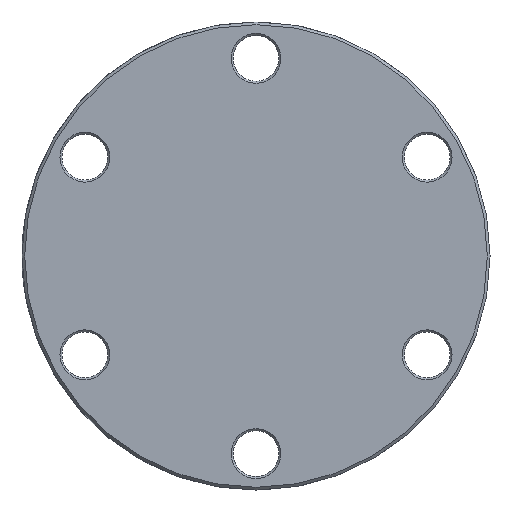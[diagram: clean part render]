
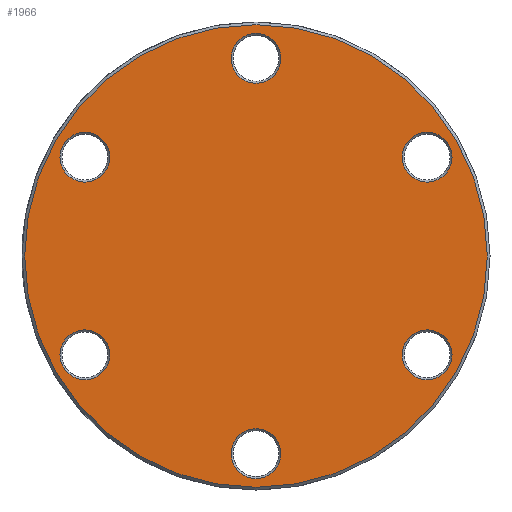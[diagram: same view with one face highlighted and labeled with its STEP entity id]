
A CAD part, left-side view. The second image highlights one B-rep face of the part: STEP entity #1966.
In plain terms, the highlighted planar face has unit normal (-1, 0, 0).
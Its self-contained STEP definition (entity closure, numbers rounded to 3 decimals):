
#274=CARTESIAN_POINT('',(-13.,34.35,0.));
#275=VERTEX_POINT('',#274);
#276=CARTESIAN_POINT('',(-13.,0.0,0.0));
#277=DIRECTION('',(1.0,0.0,0.0));
#278=DIRECTION('',(0.0,-1.0,0.0));
#279=AXIS2_PLACEMENT_3D('',#276,#277,#278);
#280=CIRCLE('',#279,34.35);
#281=EDGE_CURVE('',#275,#275,#280,.T.);
#1892=CARTESIAN_POINT('',(-13.,17.375,0.0));
#1893=DIRECTION('',(-1.0,0.0,0.0));
#1894=DIRECTION('',(0.0,0.0,1.0));
#1895=AXIS2_PLACEMENT_3D('',#1892,#1893,#1894);
#1896=PLANE('',#1895);
#1897=ORIENTED_EDGE('',*,*,#281,.F.);
#1898=EDGE_LOOP('',(#1897));
#1899=FACE_OUTER_BOUND('',#1898,.T.);
#1900=CARTESIAN_POINT('',(-13.,3.204,-27.5));
#1901=VERTEX_POINT('',#1900);
#1902=CARTESIAN_POINT('',(-13.,0.,-29.35));
#1903=DIRECTION('',(-1.0,0.0,0.0));
#1904=DIRECTION('',(0.0,-0.866,-0.5));
#1905=AXIS2_PLACEMENT_3D('',#1902,#1903,#1904);
#1906=CIRCLE('',#1905,3.7);
#1907=EDGE_CURVE('',#1901,#1901,#1906,.T.);
#1908=ORIENTED_EDGE('',*,*,#1907,.F.);
#1909=EDGE_LOOP('',(#1908));
#1910=FACE_BOUND('',#1909,.T.);
#1911=CARTESIAN_POINT('',(-13.,-25.418,10.975));
#1912=VERTEX_POINT('',#1911);
#1913=CARTESIAN_POINT('',(-13.,-25.418,14.675));
#1914=DIRECTION('',(-1.0,0.0,0.0));
#1915=DIRECTION('',(0.0,0.0,1.0));
#1916=AXIS2_PLACEMENT_3D('',#1913,#1914,#1915);
#1917=CIRCLE('',#1916,3.7);
#1918=EDGE_CURVE('',#1912,#1912,#1917,.T.);
#1919=ORIENTED_EDGE('',*,*,#1918,.F.);
#1920=EDGE_LOOP('',(#1919));
#1921=FACE_BOUND('',#1920,.T.);
#1922=CARTESIAN_POINT('',(-13.,22.214,16.525));
#1923=VERTEX_POINT('',#1922);
#1924=CARTESIAN_POINT('',(-13.,25.418,14.675));
#1925=DIRECTION('',(-1.,0.0,0.0));
#1926=DIRECTION('',(0.0,0.866,-0.5));
#1927=AXIS2_PLACEMENT_3D('',#1924,#1925,#1926);
#1928=CIRCLE('',#1927,3.7);
#1929=EDGE_CURVE('',#1923,#1923,#1928,.T.);
#1930=ORIENTED_EDGE('',*,*,#1929,.F.);
#1931=EDGE_LOOP('',(#1930));
#1932=FACE_BOUND('',#1931,.T.);
#1933=CARTESIAN_POINT('',(-13.,25.418,-10.975));
#1934=VERTEX_POINT('',#1933);
#1935=CARTESIAN_POINT('',(-13.,25.418,-14.675));
#1936=DIRECTION('',(-1.0,0.0,0.0));
#1937=DIRECTION('',(0.0,0.0,-1.0));
#1938=AXIS2_PLACEMENT_3D('',#1935,#1936,#1937);
#1939=CIRCLE('',#1938,3.7);
#1940=EDGE_CURVE('',#1934,#1934,#1939,.T.);
#1941=ORIENTED_EDGE('',*,*,#1940,.F.);
#1942=EDGE_LOOP('',(#1941));
#1943=FACE_BOUND('',#1942,.T.);
#1944=CARTESIAN_POINT('',(-13.,-3.204,27.5));
#1945=VERTEX_POINT('',#1944);
#1946=CARTESIAN_POINT('',(-13.,0.,29.35));
#1947=DIRECTION('',(-1.0,0.0,0.0));
#1948=DIRECTION('',(0.0,0.866,0.5));
#1949=AXIS2_PLACEMENT_3D('',#1946,#1947,#1948);
#1950=CIRCLE('',#1949,3.7);
#1951=EDGE_CURVE('',#1945,#1945,#1950,.T.);
#1952=ORIENTED_EDGE('',*,*,#1951,.F.);
#1953=EDGE_LOOP('',(#1952));
#1954=FACE_BOUND('',#1953,.T.);
#1955=CARTESIAN_POINT('',(-13.,-22.214,-16.525));
#1956=VERTEX_POINT('',#1955);
#1957=CARTESIAN_POINT('',(-13.,-25.418,-14.675));
#1958=DIRECTION('',(-1.0,0.0,0.0));
#1959=DIRECTION('',(0.0,-0.866,0.5));
#1960=AXIS2_PLACEMENT_3D('',#1957,#1958,#1959);
#1961=CIRCLE('',#1960,3.7);
#1962=EDGE_CURVE('',#1956,#1956,#1961,.T.);
#1963=ORIENTED_EDGE('',*,*,#1962,.F.);
#1964=EDGE_LOOP('',(#1963));
#1965=FACE_BOUND('',#1964,.T.);
#1966=ADVANCED_FACE('',(#1899,#1910,#1921,#1932,#1943,#1954,#1965),#1896,.T.);
